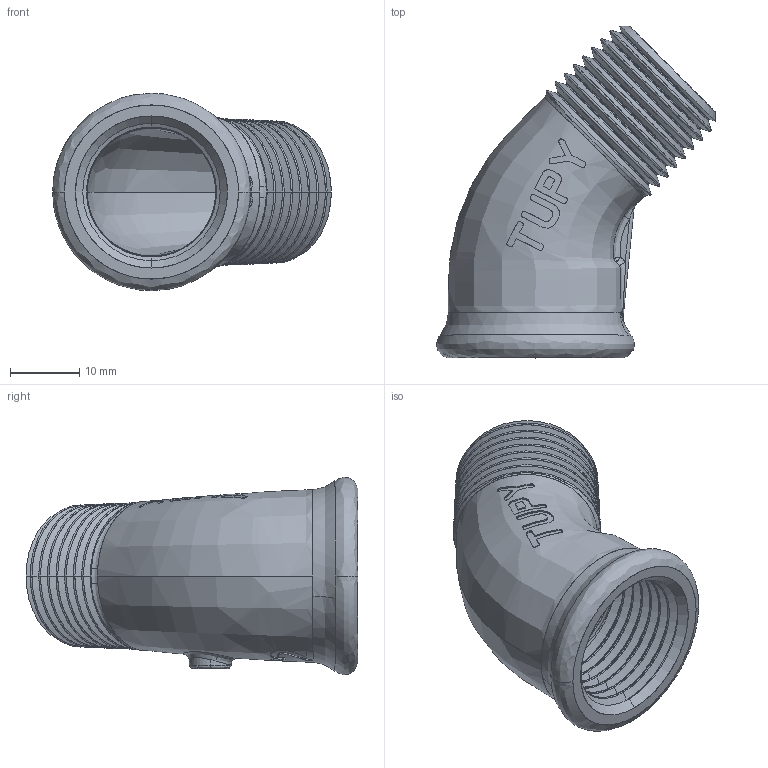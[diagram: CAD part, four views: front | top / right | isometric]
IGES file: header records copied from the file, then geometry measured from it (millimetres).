
Start section: SolidWorks IGES file using analytic representation for surfaces
Global section: file name: C:\Users\Joel Rosa\Desktop\Tubulação\12-10-XXX\12-10-004.IGS; native system: SolidWorks 2011; preprocessor: SolidWorks 2011; author: Joel Rosa; date: 121216.020801; units: millimetre
Bounding box: 40.32 x 48.02 x 28.59 mm (x, y, z)
Surface area: 7946.9 mm2 (no closed solid volume)
Topology: 0 solids, 0 shells, 293 faces, 3001 edges, 2999 vertices
Faces by surface type: bspline 221, revolution 72
